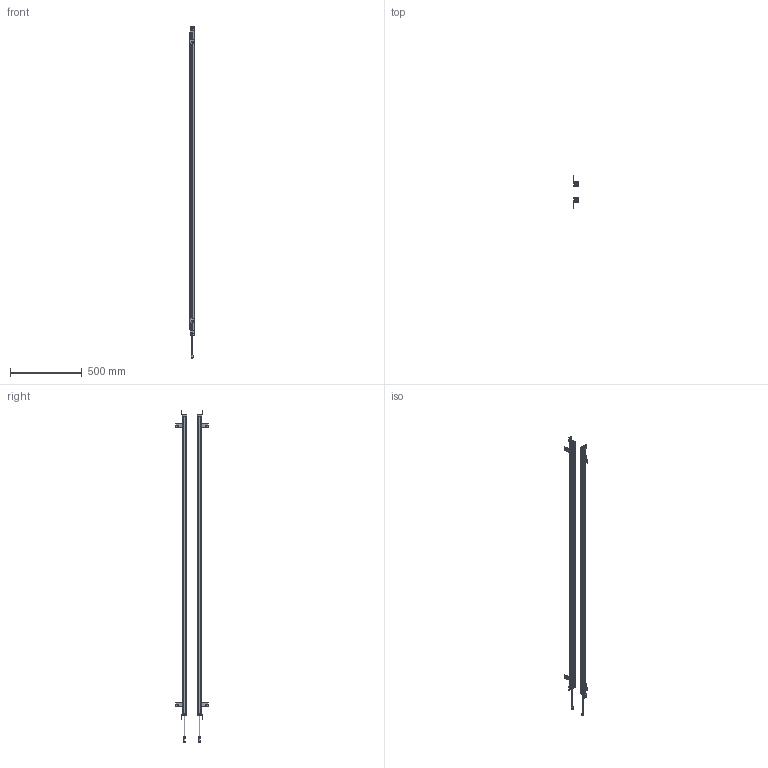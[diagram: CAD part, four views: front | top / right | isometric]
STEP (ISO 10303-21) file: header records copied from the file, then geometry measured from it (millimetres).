
FILE_DESCRIPTION(/* description */ (''),/* implementation_level */ '2;1');
FILE_NAME(/* name */ '5240（29x30).stp',/* time_stamp */ '2023-05-04T09:12:10+08:00',/* author */ (''),/* organization */ (''),/* preprocessor_version */ 'ST-DEVELOPER v16.7',/* originating_system */ 'SIEMENS PLM Software NX 12.0',/* authorisation */ '');
FILE_SCHEMA (('AUTOMOTIVE_DESIGN { 1 0 10303 214 3 1 1 1 }'));
Products named in the file (1): 2640（29x30__stp11
Bounding box: 32.03 x 223.99 x 2321 mm (x, y, z)
Volume: 1277601.7 mm3; surface area: 1312297.8 mm2
Topology: 34 solids, 34 shells, 1610 faces, 4267 edges, 2771 vertices
Faces by surface type: plane 750, cylinder 648, bspline 88, sphere 36, cone 36, torus 32, extrusion 20
Full cylindrical faces by diameter (mm): 1.533 x6, 4.4 x4, 9 x2, 12.5 x2
Entity records: 56427 total; most frequent: CARTESIAN_POINT 16064, DIRECTION 8330, ORIENTED_EDGE 8324, EDGE_CURVE 4162, AXIS2_PLACEMENT_3D 2918, VERTEX_POINT 2696, VECTOR 2494, LINE 2474
